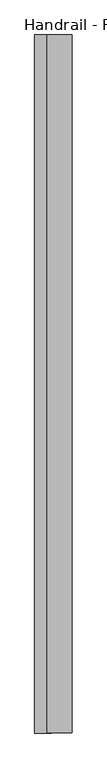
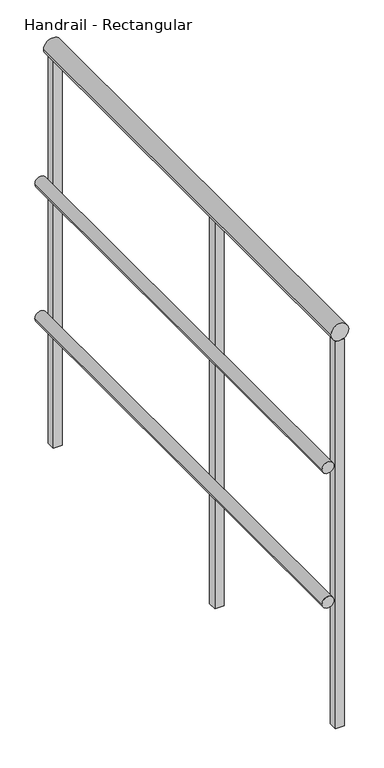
"""IFC4 building model written with IfcOpenShell, lengths in millimetres: railing geometry, Handrail - Rectangular."""

import ifcopenshell
import ifcopenshell.guid

model = None  # the IFC model being written
_history = None  # IfcOwnerHistory: only IFC2X3 demands one
_inside = {}  # id of a spatial element -> (the spatial element, [elements in it])
_under = {}  # id of a project, library or spatial element -> (it, [spatial elements below it])
_declared = {}  # id of a project -> (the project, [libraries it declares])
_typed = {}  # id of a type object -> (the type object, [elements of that type])
_made_of = {}  # id of a material, layer set ... -> (it, [elements and type objects made of it])


def new_model(schema):
    """Start an empty IFC model of exactly this schema.

    Asked for "IFC4X3", IfcOpenShell would pick the latest addendum, in which some entities
    have other attributes; the version numbers below select the first issue.
    IFC2X3 requires an IfcOwnerHistory on every rooted entity: one is made here for all.
    """
    global model, _history
    if schema == "IFC4X3":
        model = ifcopenshell.file(schema_version=(4, 3, 0, 0))
    else:
        model = ifcopenshell.file(schema=schema)
    _inside.clear()
    _under.clear()
    _declared.clear()
    _typed.clear()
    _made_of.clear()
    _history = None
    if model.schema == "IFC2X3":
        org = make("IfcOrganization", Name="unknown")
        user = make(
            "IfcPersonAndOrganization",
            ThePerson=make("IfcPerson", FamilyName="unknown"),
            TheOrganization=org,
        )
        app = make(
            "IfcApplication",
            ApplicationDeveloper=org,
            Version="unknown",
            ApplicationFullName="unknown",
            ApplicationIdentifier="unknown",
        )
        _history = make(
            "IfcOwnerHistory",
            OwningUser=user,
            OwningApplication=app,
            ChangeAction="ADDED",
            CreationDate=0,
        )
    return model


def make(cls, **values):
    """One entity of the class cls with the attributes given. An attribute that is None is left unset."""
    return model.create_entity(
        cls, **{name: value for name, value in values.items() if value is not None}
    )


def rooted(cls, **values):
    """An entity with a GlobalId (a new one), such as an element, a storey or a relation."""
    return make(cls, GlobalId=ifcopenshell.guid.new(), OwnerHistory=_history, **values)


def si_unit(unit_type, name, prefix=None):
    """IfcSIUnit, for example si_unit("LENGTHUNIT", "METRE", prefix="MILLI")."""
    return make("IfcSIUnit", UnitType=unit_type, Prefix=prefix, Name=name)


def assignment(units):
    """IfcUnitAssignment: the units of a project."""
    return None if units is None else make("IfcUnitAssignment", Units=units)


def point(xyz):
    """IfcCartesianPoint."""
    return None if xyz is None else make("IfcCartesianPoint", Coordinates=xyz)


def direction(xyz):
    """IfcDirection."""
    return None if xyz is None else make("IfcDirection", DirectionRatios=xyz)


def frame(location, z_axis=None, x_axis=None):
    """IfcAxis2Placement3D, a coordinate frame: its origin and axes. An axis left out is left unset."""
    return make(
        "IfcAxis2Placement3D",
        Location=point(location),
        Axis=direction(z_axis),
        RefDirection=direction(x_axis),
    )


def frame_2d(location, x_axis=None):
    """IfcAxis2Placement2D, a coordinate frame in the plane: its origin and x axis."""
    return make(
        "IfcAxis2Placement2D", Location=point(location), RefDirection=direction(x_axis)
    )


def origin():
    """The frame at (0, 0, 0) with its axes left unset."""
    return frame((0.0, 0.0, 0.0))


def place(relative_to, where):
    """IfcLocalPlacement: puts the frame where relative to a parent placement (None: the world)."""
    return make(
        "IfcLocalPlacement", PlacementRelTo=relative_to, RelativePlacement=where
    )


def context(
    kind, dimensions, precision=None, world=None, true_north=None, identifier=None
):
    """IfcGeometricRepresentationContext, for example the 3D "Model" context."""
    return make(
        "IfcGeometricRepresentationContext",
        ContextIdentifier=identifier,
        ContextType=kind,
        CoordinateSpaceDimension=dimensions,
        Precision=precision,
        WorldCoordinateSystem=world,
        TrueNorth=true_north,
    )


def project(units=None, contexts=None):
    """IfcProject with its units and contexts."""
    return rooted(
        "IfcProject",
        Name="project",
        RepresentationContexts=contexts,
        UnitsInContext=assignment(units),
    )


def spatial(cls, under=None, at=None, **own):
    """A site, building, storey or space (cls), placed at a placement, below another one or the project."""
    s = rooted(cls, ObjectPlacement=at, **own)
    if under is not None:
        _under.setdefault(under.id(), (under, []))[1].append(s)
    return s


def polyline(points):
    """IfcPolyline through the points."""
    return make("IfcPolyline", Points=[point(p) for p in points])


def circle_curve(where, radius):
    """IfcCircle in the frame where."""
    return make("IfcCircle", Position=where, Radius=radius)


def trimmed(basis, trim1, trim2, sense, master):
    """IfcTrimmedCurve: the piece of a basis curve between two trims."""
    return make(
        "IfcTrimmedCurve",
        BasisCurve=basis,
        Trim1=trim1,
        Trim2=trim2,
        SenseAgreement=sense,
        MasterRepresentation=master,
    )


def segment(curve, same_sense, transition):
    """IfcCompositeCurveSegment."""
    return make(
        "IfcCompositeCurveSegment",
        Transition=transition,
        SameSense=same_sense,
        ParentCurve=curve,
    )


def composite_curve(segments, self_intersect=None):
    """IfcCompositeCurve: segments joined end to end."""
    return make("IfcCompositeCurve", Segments=segments, SelfIntersect=self_intersect)


def outline(outer, holes=None, kind="AREA"):
    """IfcArbitraryClosedProfileDef: a profile drawn as a closed curve; with holes, ...WithVoids."""
    if holes is None:
        return make("IfcArbitraryClosedProfileDef", ProfileType=kind, OuterCurve=outer)
    return make(
        "IfcArbitraryProfileDefWithVoids",
        ProfileType=kind,
        OuterCurve=outer,
        InnerCurves=holes,
    )


def extrude(swept, where, along, depth):
    """IfcExtrudedAreaSolid: the profile swept, set in the frame where, extruded along a direction by depth."""
    return make(
        "IfcExtrudedAreaSolid",
        SweptArea=swept,
        Position=where,
        ExtrudedDirection=direction(along),
        Depth=depth,
    )


def shape(context_of_items, identifier, shape_type, items):
    """IfcShapeRepresentation: the items that make up one representation, for example the "Body"."""
    return make(
        "IfcShapeRepresentation",
        ContextOfItems=context_of_items,
        RepresentationIdentifier=identifier,
        RepresentationType=shape_type,
        Items=items,
    )


def source(mapping_origin, context_of_items, identifier, shape_type, items):
    """IfcRepresentationMap: a shape defined once, which mapped items show again and again."""
    return make(
        "IfcRepresentationMap",
        MappingOrigin=mapping_origin,
        MappedRepresentation=shape(context_of_items, identifier, shape_type, items),
    )


def transform(
    local_origin,
    x_axis=None,
    y_axis=None,
    z_axis=None,
    scale=None,
    scale2=None,
    scale3=None,
    uniform=True,
):
    """IfcCartesianTransformationOperator3D, or its non-uniform kind. x_axis, y_axis, z_axis: its Axis1, 2, 3."""
    if uniform:
        return make(
            "IfcCartesianTransformationOperator3D",
            Axis1=direction(x_axis),
            Axis2=direction(y_axis),
            LocalOrigin=point(local_origin),
            Scale=scale,
            Axis3=direction(z_axis),
        )
    return make(
        "IfcCartesianTransformationOperator3DnonUniform",
        Axis1=direction(x_axis),
        Axis2=direction(y_axis),
        LocalOrigin=point(local_origin),
        Scale=scale,
        Axis3=direction(z_axis),
        Scale2=scale2,
        Scale3=scale3,
    )


def mapped(mapping_source, mapping_target):
    """IfcMappedItem: shows the shape of a source again, moved by a transform."""
    return make(
        "IfcMappedItem", MappingSource=mapping_source, MappingTarget=mapping_target
    )


def made_of(thing, what):
    """Note that an element or type object is made of a material, layer set ...; save() writes the relation."""
    if what is not None:
        _made_of.setdefault(what.id(), (what, []))[1].append(thing)
    return thing


def element(
    cls,
    number,
    at=None,
    inside=None,
    cuts=None,
    type_object=None,
    material=None,
    context=None,
    identifier="Body",
    shape_type=None,
    held_by="IfcProductDefinitionShape",
    body=None,
    shapes=None,
    **own,
):
    """One element of the class cls, such as IfcWall. Its Tag is "e" and its number.

    at: its placement. inside: the storey or other place that contains it. cuts: it is an
    opening in that element (IfcRelVoidsElement). A single representation is given by context,
    identifier, shape_type and body (its items); several are given by shapes. held_by: the class
    of the entity that holds the representations. save() writes the other relations.
    """
    e = rooted(cls, Tag="e%d" % number, ObjectPlacement=at, **own)
    if body is not None:
        shapes = [shape(context, identifier, shape_type, body)]
    if shapes is not None:
        e.Representation = make(held_by, Representations=shapes)
    if inside is not None:
        _inside.setdefault(inside.id(), (inside, []))[1].append(e)
    if cuts is not None:
        rooted(
            "IfcRelVoidsElement", RelatingBuildingElement=cuts, RelatedOpeningElement=e
        )
    if type_object is not None:
        _typed.setdefault(type_object.id(), (type_object, []))[1].append(e)
    return made_of(e, material)


def aggregate(whole, parts):
    """IfcRelAggregates: a whole, such as a stair, and the parts it consists of."""
    return rooted("IfcRelAggregates", RelatingObject=whole, RelatedObjects=parts)


def save(model, path):
    """Write the relations noted so far, then the file.

    IfcRelAggregates (storeys below a building ...), IfcRelContainedInSpatialStructure (elements
    in a storey), IfcRelDefinesByType, IfcRelAssociatesMaterial and IfcRelDeclares: one each for
    every whole, place, type object, material and project.
    """
    for whole, parts in _under.values():
        aggregate(whole, parts)
    for where, things in _inside.values():
        rooted(
            "IfcRelContainedInSpatialStructure",
            RelatedElements=things,
            RelatingStructure=where,
        )
    for kind, things in _typed.values():
        rooted("IfcRelDefinesByType", RelatedObjects=things, RelatingType=kind)
    for what, things in _made_of.values():
        rooted("IfcRelAssociatesMaterial", RelatedObjects=things, RelatingMaterial=what)
    for by, libraries in _declared.values():
        rooted("IfcRelDeclares", RelatingContext=by, RelatedDefinitions=libraries)
    model.write(path)


def handrail_rectangular_cf185419(model_context):
    return source(origin(), model_context, "Body", "SweptSolid", [
        extrude(outline(composite_curve([segment(trimmed(circle_curve(frame_2d((3644.9, -32192.8839563)), 12.7), [point((3644.9, -32205.5839563))], [point((3644.9, -32180.1839563))], False, "CARTESIAN"), True, "CONTINUOUS"), segment(trimmed(circle_curve(frame_2d((3644.9, -32192.8839563)), 12.7), [point((3644.9, -32180.1839563))], [point((3644.9, -32205.5839563))], False, "CARTESIAN"), True, "CONTINUOUS")], self_intersect=False)), frame((0.0, 6864.8316867, 0.0), z_axis=(0.0, 1.0, 0.0), x_axis=(0.0, 0.0, 1.0)), (0.0, 0.0, 1.0), 1066.8),
        extrude(outline(composite_curve([segment(trimmed(circle_curve(frame_2d((3340.1, -32192.8839563)), 12.7), [point((3340.1, -32205.5839563))], [point((3340.1, -32180.1839563))], False, "CARTESIAN"), True, "CONTINUOUS"), segment(trimmed(circle_curve(frame_2d((3340.1, -32192.8839563)), 12.7), [point((3340.1, -32180.1839563))], [point((3340.1, -32205.5839563))], False, "CARTESIAN"), True, "CONTINUOUS")], self_intersect=False)), frame((0.0, 6864.8316867, 0.0), z_axis=(0.0, 1.0, 0.0), x_axis=(0.0, 0.0, 1.0)), (0.0, 0.0, 1.0), 1066.8),
        extrude(outline(composite_curve([segment(trimmed(circle_curve(frame_2d((3943.35, -32167.4839563)), 19.05), [point((3943.35, -32186.5339563))], [point((3943.35, -32148.4339563))], False, "CARTESIAN"), True, "CONTINUOUS"), segment(trimmed(circle_curve(frame_2d((3943.35, -32167.4839563)), 19.05), [point((3943.35, -32148.4339563))], [point((3943.35, -32186.5339563))], False, "CARTESIAN"), True, "CONTINUOUS")], self_intersect=False)), frame((0.0, 6864.8316867, 0.0), z_axis=(0.0, 1.0, 0.0), x_axis=(0.0, 0.0, 1.0)), (0.0, 0.0, 1.0), 1066.8),
        extrude(outline(polyline([(-32157.9589563, 7331.5566867), (-32157.9589563, 7312.5066867), (-32177.0089563, 7312.5066867), (-32177.0089563, 7331.5566867), (-32157.9589563, 7331.5566867)])), frame((0.0, 0.0, 3048.0), z_axis=(0.0, 0.0, 1.0), x_axis=(1.0, 0.0, 0.0)), (0.0, 0.0, 1.0), 876.3),
        extrude(outline(polyline([(-32157.9589563, 6883.8816867), (-32157.9589563, 6864.8316867), (-32177.0089563, 6864.8316867), (-32177.0089563, 6883.8816867), (-32157.9589563, 6883.8816867)])), frame((0.0, 0.0, 3048.0), z_axis=(0.0, 0.0, 1.0), x_axis=(1.0, 0.0, 0.0)), (0.0, 0.0, 1.0), 876.3),
        extrude(outline(polyline([(-32157.9589563, 7931.6316867), (-32157.9589563, 7912.5816867), (-32177.0089563, 7912.5816867), (-32177.0089563, 7931.6316867), (-32157.9589563, 7931.6316867)])), frame((0.0, 0.0, 3048.0), z_axis=(0.0, 0.0, 1.0), x_axis=(1.0, 0.0, 0.0)), (0.0, 0.0, 1.0), 876.3),
    ])


if __name__ == "__main__":
    model = new_model("IFC4")
    model_context = context("Model", 3, world=origin())
    ifc_project = project(units=[si_unit("LENGTHUNIT", "METRE", prefix="MILLI")], contexts=[model_context])
    site = spatial("IfcSite", under=ifc_project)
    building = spatial("IfcBuilding", under=site)
    placement = place(None, origin())
    handrail_rectangular_shape = handrail_rectangular_cf185419(model_context)
    element("IfcRailing", 1, ObjectType="Handrail - Rectangular", at=placement, inside=building, context=model_context, shape_type="MappedRepresentation", body=[
        mapped(handrail_rectangular_shape, transform((0.0, 0.0, 0.0), x_axis=(1.0, 0.0, 0.0), y_axis=(0.0, 1.0, 0.0), z_axis=(0.0, 0.0, 1.0))),
    ])
    save(model, "model.ifc")
